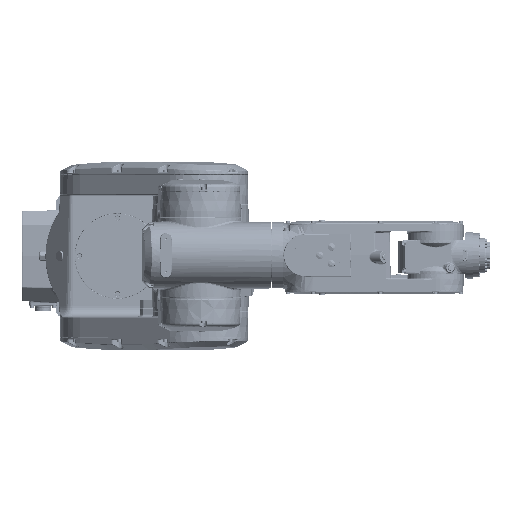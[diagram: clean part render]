
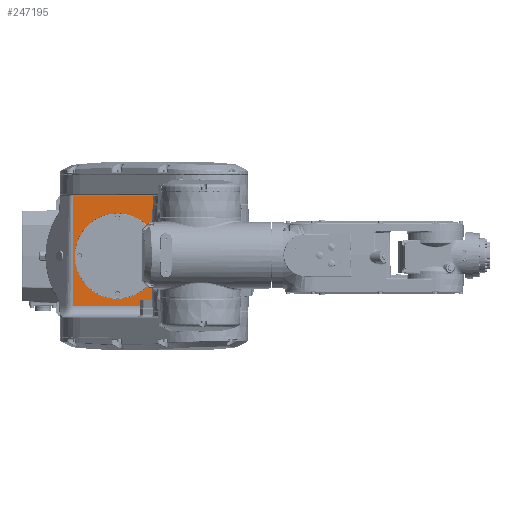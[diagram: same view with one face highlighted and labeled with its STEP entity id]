
A CAD part, top view. The second image highlights one B-rep face of the part: STEP entity #247195.
In plain terms, the highlighted planar face has unit normal (-0.052, 0.035, 0.998).
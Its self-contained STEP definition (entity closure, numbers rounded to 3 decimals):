
#6262 = FACE_BOUND ( 'NONE', #171211, .T. ) ;
#7035 = ORIENTED_EDGE ( 'NONE', *, *, #63645, .F. ) ;
#9537 = DIRECTION ( 'NONE',  ( 0.999, 0., 0.052 ) ) ;
#9573 = EDGE_LOOP ( 'NONE', ( #7035, #284962, #255924, #80415 ) ) ;
#13385 = VECTOR ( 'NONE', #46902, 1000. ) ;
#15962 = AXIS2_PLACEMENT_3D ( 'NONE', #213460, #82126, #9537 ) ;
#17420 = ORIENTED_EDGE ( 'NONE', *, *, #241095, .T. ) ;
#18578 = CARTESIAN_POINT ( 'NONE',  ( -77.587, 155., 403.626 ) ) ;
#38320 =( BOUNDED_CURVE ( )  B_SPLINE_CURVE ( 3, ( #50563, #151726, #308386, #47232 ),
 .UNSPECIFIED., .F., .T. ) 
 B_SPLINE_CURVE_WITH_KNOTS ( ( 4, 4 ),
 ( 4.712, 7.854 ),
 .UNSPECIFIED. ) 
 CURVE ( )  GEOMETRIC_REPRESENTATION_ITEM ( )  RATIONAL_B_SPLINE_CURVE ( ( 1., 0.333, 0.333, 1. ) ) 
 REPRESENTATION_ITEM ( '' )  );
#46902 = DIRECTION ( 'NONE',  ( 0.999, 0., 0.052 ) ) ;
#47232 = CARTESIAN_POINT ( 'NONE',  ( -77.87, 0., 409.031 ) ) ;
#49825 = EDGE_CURVE ( 'NONE', #152474, #227382, #180907, .T. ) ;
#50563 = CARTESIAN_POINT ( 'NONE',  ( 76.918, 0., 417.143 ) ) ;
#63645 = EDGE_CURVE ( 'NONE', #152474, #319737, #124575, .T. ) ;
#80073 = CARTESIAN_POINT ( 'NONE',  ( -80.658, 109.5, 405.056 ) ) ;
#80415 = ORIENTED_EDGE ( 'NONE', *, *, #88357, .T. ) ;
#82126 = DIRECTION ( 'NONE',  ( -0.052, 0.035, 0.998 ) ) ;
#88357 = EDGE_CURVE ( 'NONE', #260078, #319737, #254191, .T. ) ;
#93438 = DIRECTION ( 'NONE',  ( 0.002, 0.999, -0.035 ) ) ;
#107892 = CARTESIAN_POINT ( 'NONE',  ( 84.546, -90.698, 420.715 ) ) ;
#110721 = CARTESIAN_POINT ( 'NONE',  ( 76.918, 0., 417.143 ) ) ;
#118044 = CARTESIAN_POINT ( 'NONE',  ( 77.201, 155., 411.738 ) ) ;
#121246 = DIRECTION ( 'NONE',  ( -0.002, -0.999, 0.035 ) ) ;
#124575 = LINE ( 'NONE', #146548, #191900 ) ;
#127931 = VECTOR ( 'NONE', #93438, 1000. ) ;
#146548 = CARTESIAN_POINT ( 'NONE',  ( 84.546, -90.698, 420.715 ) ) ;
#151726 = CARTESIAN_POINT ( 'NONE',  ( 76.634, -155., 422.549 ) ) ;
#152474 = VERTEX_POINT ( 'NONE', #244710 ) ;
#163342 =( BOUNDED_CURVE ( )  B_SPLINE_CURVE ( 3, ( #273033, #18578, #118044, #195577 ),
 .UNSPECIFIED., .F., .F. ) 
 B_SPLINE_CURVE_WITH_KNOTS ( ( 4, 4 ),
 ( 1.571, 4.712 ),
 .UNSPECIFIED. ) 
 CURVE ( )  GEOMETRIC_REPRESENTATION_ITEM ( )  RATIONAL_B_SPLINE_CURVE ( ( 1., 0.333, 0.333, 1. ) ) 
 REPRESENTATION_ITEM ( '' )  );
#167287 = CARTESIAN_POINT ( 'NONE',  ( -81.024, -90.698, 412.038 ) ) ;
#171211 = EDGE_LOOP ( 'NONE', ( #17420, #305205 ) ) ;
#171468 = EDGE_CURVE ( 'NONE', #260078, #227382, #214865, .T. ) ;
#180214 = VERTEX_POINT ( 'NONE', #110721 ) ;
#180907 = LINE ( 'NONE', #228160, #183517 ) ;
#183517 = VECTOR ( 'NONE', #330878, 1000. ) ;
#184884 = PLANE ( 'NONE',  #15962 ) ;
#191900 = VECTOR ( 'NONE', #121246, 1000. ) ;
#195577 = CARTESIAN_POINT ( 'NONE',  ( 76.918, 0., 417.143 ) ) ;
#213460 = CARTESIAN_POINT ( 'NONE',  ( -8.116, 109.5, 408.858 ) ) ;
#213487 = VERTEX_POINT ( 'NONE', #300246 ) ;
#214865 = LINE ( 'NONE', #324272, #127931 ) ;
#227382 = VERTEX_POINT ( 'NONE', #80073 ) ;
#228160 = CARTESIAN_POINT ( 'NONE',  ( -8.116, 109.5, 408.858 ) ) ;
#241095 = EDGE_CURVE ( 'NONE', #180214, #213487, #38320, .T. ) ;
#244710 = CARTESIAN_POINT ( 'NONE',  ( 84.912, 109.5, 413.733 ) ) ;
#247195 = ADVANCED_FACE ( 'NONE', ( #6262, #319540 ), #184884, .T. ) ;
#250616 = EDGE_CURVE ( 'NONE', #213487, #180214, #163342, .T. ) ;
#254191 = LINE ( 'NONE', #277763, #13385 ) ;
#255924 = ORIENTED_EDGE ( 'NONE', *, *, #171468, .F. ) ;
#260078 = VERTEX_POINT ( 'NONE', #167287 ) ;
#273033 = CARTESIAN_POINT ( 'NONE',  ( -77.87, 0., 409.031 ) ) ;
#277763 = CARTESIAN_POINT ( 'NONE',  ( -8.482, -90.698, 415.839 ) ) ;
#284962 = ORIENTED_EDGE ( 'NONE', *, *, #49825, .T. ) ;
#300246 = CARTESIAN_POINT ( 'NONE',  ( -77.87, 0., 409.031 ) ) ;
#305205 = ORIENTED_EDGE ( 'NONE', *, *, #250616, .T. ) ;
#308386 = CARTESIAN_POINT ( 'NONE',  ( -78.153, -155., 414.437 ) ) ;
#319540 = FACE_OUTER_BOUND ( 'NONE', #9573, .T. ) ;
#319737 = VERTEX_POINT ( 'NONE', #107892 ) ;
#324272 = CARTESIAN_POINT ( 'NONE',  ( -81.024, -90.698, 412.038 ) ) ;
#330878 = DIRECTION ( 'NONE',  ( -0.999, 0., -0.052 ) ) ;
